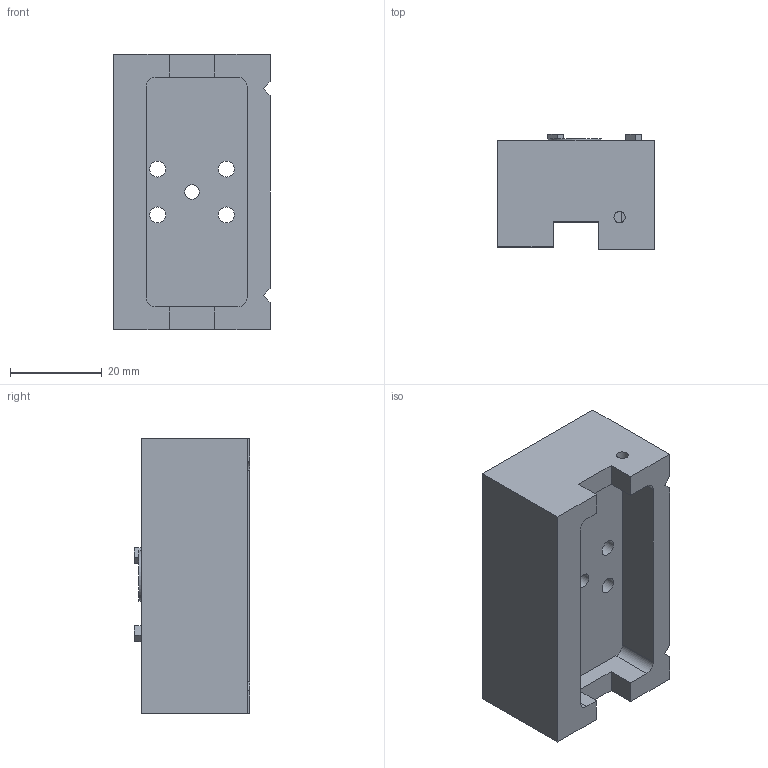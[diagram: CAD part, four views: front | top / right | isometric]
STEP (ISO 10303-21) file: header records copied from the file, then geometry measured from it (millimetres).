
FILE_DESCRIPTION(/* description */ (''),/* implementation_level */ '2;1');
FILE_NAME(/* name */ 'C:\Users\strothej\Documents\ActualDocuments\MicroscopeParts\TwoPhotonSystem\ScanningMechanics\v27\Drawings\Adapter_2p75in_Kinematic_Mount.stp',/* time_stamp */ '2017-06-03T15:14:38-07:00',/* author */ ('strothej'),/* organization */ (''),/* preprocessor_version */ 'ST-DEVELOPER v16.1',/* originating_system */ 'Autodesk Inventor 2016',/* authorisation */ '');
FILE_SCHEMA (('AUTOMOTIVE_DESIGN { 1 0 10303 214 3 1 1 }'));
Length unit declared in the file: millimetre
Products named in the file (1): Adapter_2p75in_Kinematic_Mount
Bounding box: 34 x 25.1 x 60 mm (x, y, z)
Volume: 35797.5 mm3; surface area: 10611.6 mm2
Topology: 1 solids, 1 shells, 54 faces, 145 edges, 99 vertices
Faces by surface type: plane 39, cylinder 15
Full cylindrical faces by diameter (mm): 2.459 x1, 3.242 x1, 3.5 x4, 6 x4, 11 x1
Entity records: 1628 total; most frequent: CARTESIAN_POINT 286, DIRECTION 265, ORIENTED_EDGE 252, EDGE_CURVE 126, LINE 95, VECTOR 95, VERTEX_POINT 91, AXIS2_PLACEMENT_3D 85
